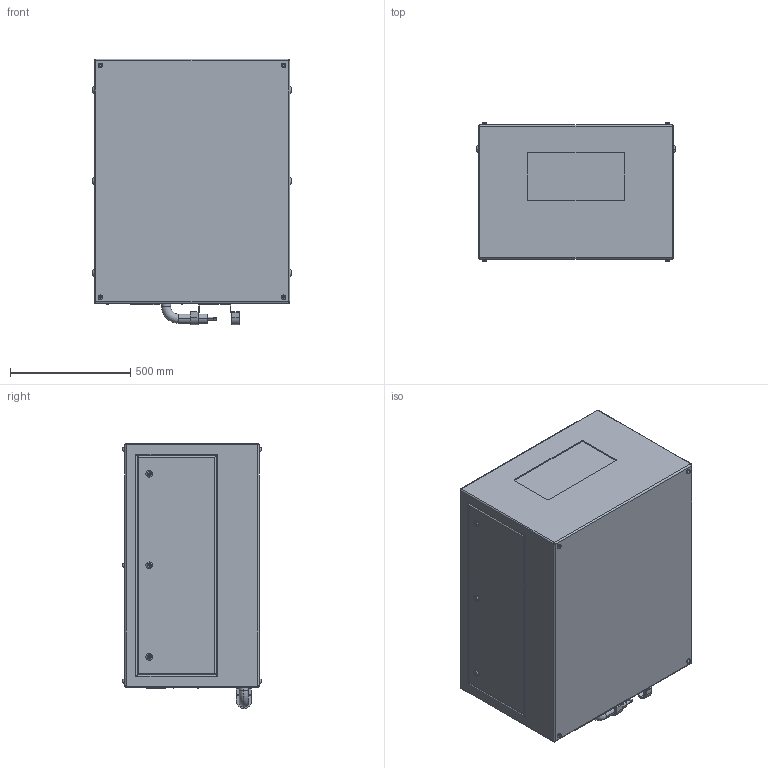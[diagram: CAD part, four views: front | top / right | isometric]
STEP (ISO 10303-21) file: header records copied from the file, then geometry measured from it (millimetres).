
FILE_DESCRIPTION (( 'STEP AP214' ), '1' );
FILE_NAME ('Oasis 59.202.L R02.STEP', '2022-08-27T16:02:57', ( '' ), ( '' ), 'SwSTEP 2.0', 'SolidWorks 2020', '' );
FILE_SCHEMA (( 'AUTOMOTIVE_DESIGN' ));
Length unit declared in the file: inch
Products named in the file (1): Oasis 59.202.L R02
Bounding box: 825.5 x 576.07 x 1104.9 mm (x, y, z)
Volume: 460936580.4 mm3; surface area: 4032854.8 mm2
Topology: 2 solids, 8 shells, 495 faces, 1131 edges, 716 vertices
Faces by surface type: plane 271, cylinder 170, torus 46, bspline 8
Entity records: 18948 total; most frequent: CARTESIAN_POINT 2855, DIRECTION 2463, ORIENTED_EDGE 2246, EDGE_CURVE 1123, AXIS2_PLACEMENT_3D 884, VERTEX_POINT 716, VECTOR 695, LINE 695
